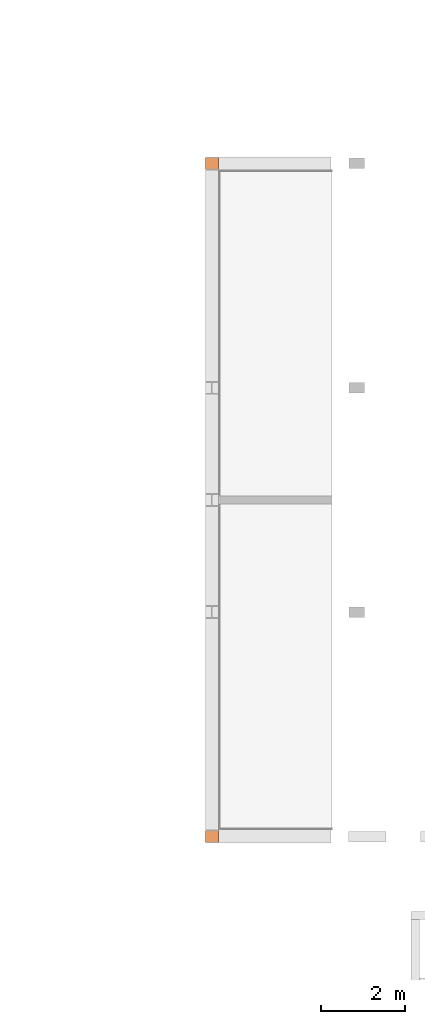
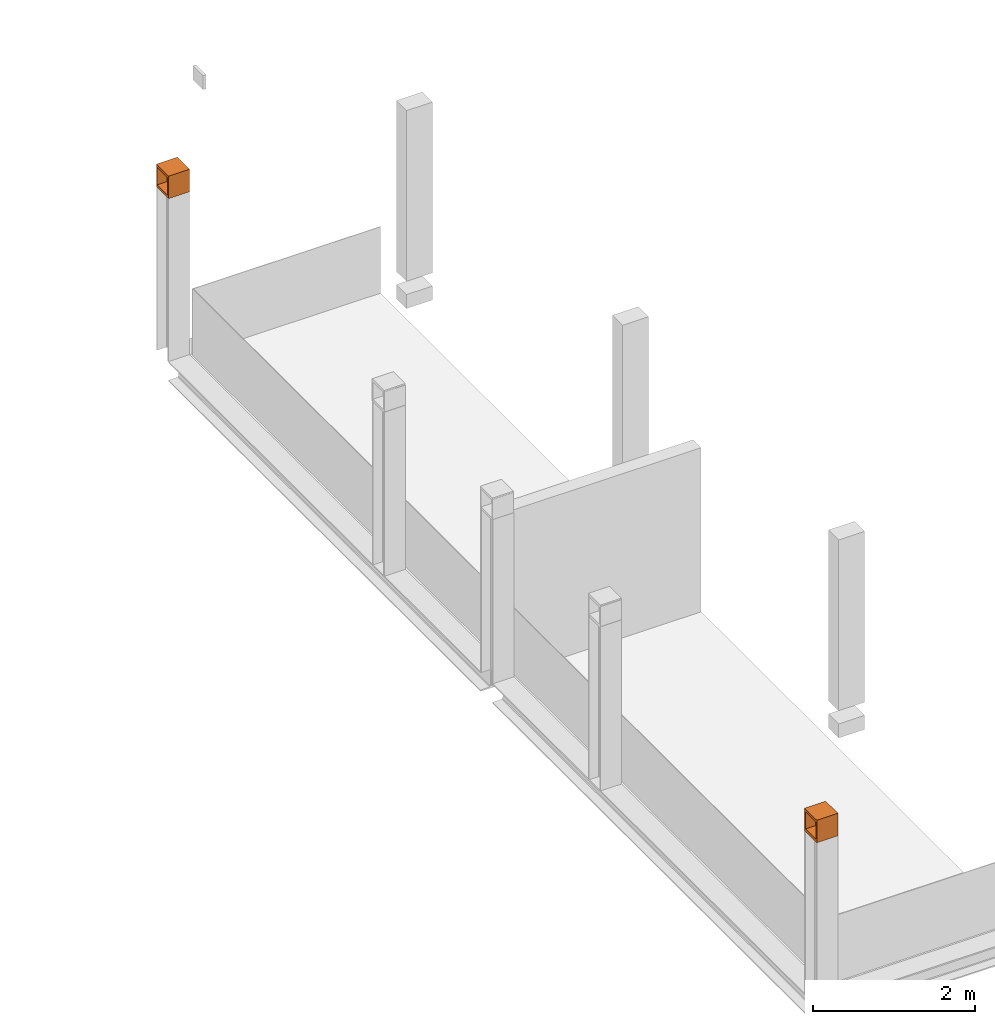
# One storey, part 22 of 22: 2 proxies.
"""IFC2X3 building model written with IfcOpenShell, lengths in millimetres."""

from ifc_helpers import new_model, entity, si_unit, converted_unit, derived_unit, money_unit, direction, frame, origin_with_axes, place, context, subcontext, project, spatial, faceted_brep, material, type_object, element, save


model = new_model("IFC2X3")

# Units and contexts
model_context = context("Model", 3, precision=0.01, world=origin_with_axes(), true_north=direction((0.0, 1.0)))
body_context = subcontext(model_context, "Body", "Model", "MODEL_VIEW")
ifc_project = project(units=[si_unit("LENGTHUNIT", "METRE", prefix="MILLI"), si_unit("AREAUNIT", "SQUARE_METRE"), si_unit("VOLUMEUNIT", "CUBIC_METRE"), converted_unit("PLANEANGLEUNIT", "DEGREE", entity("IfcPlaneAngleMeasure", 0.0174532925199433), si_unit("PLANEANGLEUNIT", "RADIAN"), dimensions=[0, 0, 0, 0, 0, 0, 0]), money_unit("EUR"), converted_unit("TIMEUNIT", "Year", entity("IfcTimeMeasure", 31557600.0), si_unit("TIMEUNIT", "SECOND"), dimensions=[0, 0, 1, 0, 0, 0, 0]), si_unit("MASSUNIT", "GRAM", prefix="KILO"), si_unit("THERMODYNAMICTEMPERATUREUNIT", "DEGREE_CELSIUS"), si_unit("LUMINOUSINTENSITYUNIT", "LUMEN"), si_unit("ENERGYUNIT", "JOULE", prefix="MEGA"), derived_unit("THERMALCONDUCTANCEUNIT", [(si_unit("POWERUNIT", "WATT"), 1), (si_unit("LENGTHUNIT", "METRE"), -1), (si_unit("THERMODYNAMICTEMPERATUREUNIT", "KELVIN"), -1)]), derived_unit("SPECIFICHEATCAPACITYUNIT", [(si_unit("ENERGYUNIT", "JOULE"), 1), (si_unit("MASSUNIT", "GRAM", prefix="KILO"), -1), (si_unit("THERMODYNAMICTEMPERATUREUNIT", "KELVIN"), -1)]), derived_unit("MASSDENSITYUNIT", [(si_unit("MASSUNIT", "GRAM", prefix="KILO"), 1), (si_unit("VOLUMEUNIT", "CUBIC_METRE"), -1)])], contexts=[model_context])

# Site, building, storey
site_placement = place(None, origin_with_axes())
site = spatial("IfcSite", under=ifc_project, at=site_placement, Name="Site", CompositionType="ELEMENT")
building_placement = place(site_placement, origin_with_axes())
building = spatial("IfcBuilding", under=site, at=building_placement, Name="Naam gebouw", CompositionType="ELEMENT")
storey_placement = place(building_placement, frame((0.0, 0.0, 11150.0), z_axis=(0.0, 0.0, 1.0), x_axis=(1.0, 0.0, 0.0)))
storey = spatial("IfcBuildingStorey", under=building, at=storey_placement, Name="3e verdieping/dak N", CompositionType="ELEMENT", Elevation=11150.0)

# Proxies
ifc_material = material(Name="staal geanodiseerd RAL 7024")
building_element_proxy_type_1 = type_object("IfcBuildingElementProxyType", Name="Structural Connections 234:Structural Connections 1", PredefinedType="NOTDEFINED")
proxy_1_placement = place(storey_placement, frame((28651.00001269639, 22625.91242505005, -7000.0), z_axis=(0.0, 0.0, 1.0), x_axis=(0.0, 1.0, 0.0)))
element("IfcBuildingElementProxy", 1, at=proxy_1_placement, inside=storey, type_object=building_element_proxy_type_1, material=ifc_material, Name="Structural Connections 234:Structural Connections 1", context=body_context, shape_type="Brep", body=[
    faceted_brep([(21170.00000128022, 11509.00001265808, 9780.0), (21170.00000128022, 11209.0000126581, 9780.0), (21170.00000128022, 11209.0000126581, 9799.999999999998), (21170.00000128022, 11509.00001265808, 9799.999999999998), (21470.00000128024, 11509.00001265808, 9780.0), (21470.00000128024, 11209.0000126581, 9780.0), (21470.00000128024, 11209.0000126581, 9799.999999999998), (21470.00000128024, 11509.00001265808, 9799.999999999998)], [[[0, 1, 2, 3]], [[0, 4, 5, 1]], [[1, 5, 6, 2]], [[3, 2, 6, 7]], [[4, 0, 3, 7]], [[5, 4, 7, 6]]]),
    faceted_brep([(21170.00000128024, 11509.00001265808, 10060.0), (21170.00000128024, 11209.0000126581, 10060.0), (21170.00000128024, 11209.0000126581, 10080.0), (21170.00000128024, 11509.00001265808, 10080.0), (21470.00000128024, 11509.00001265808, 10060.0), (21470.00000128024, 11209.0000126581, 10060.0), (21470.00000128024, 11209.0000126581, 10080.0), (21470.00000128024, 11509.00001265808, 10080.0)], [[[0, 1, 2, 3]], [[0, 4, 5, 1]], [[1, 5, 6, 2]], [[3, 2, 6, 7]], [[4, 0, 3, 7]], [[5, 4, 7, 6]]]),
    faceted_brep([(21170.00000128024, 11509.00001265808, 10080.0), (21170.00000128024, 11209.00001265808, 10080.0), (21170.00000128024, 11209.00001265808, 10100.0), (21170.00000128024, 11509.00001265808, 10100.0), (21470.00000128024, 11509.00001265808, 10080.0), (21470.00000128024, 11209.00001265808, 10080.0), (21470.00000128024, 11209.00001265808, 10100.0), (21470.00000128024, 11509.00001265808, 10100.0)], [[[0, 1, 2, 3]], [[0, 4, 5, 1]], [[1, 5, 6, 2]], [[3, 2, 6, 7]], [[4, 0, 3, 7]], [[5, 4, 7, 6]]]),
    faceted_brep([(21170.00000128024, 11509.00001265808, 9760.0), (21170.00000128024, 11209.00001265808, 9760.0), (21170.00000128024, 11209.00001265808, 9780.0), (21170.00000128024, 11509.00001265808, 9780.0), (21470.00000128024, 11509.00001265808, 9760.0), (21470.00000128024, 11209.00001265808, 9760.0), (21470.00000128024, 11209.00001265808, 9780.0), (21470.00000128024, 11509.00001265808, 9780.0)], [[[0, 1, 2, 3]], [[0, 4, 5, 1]], [[1, 5, 6, 2]], [[3, 2, 6, 7]], [[4, 0, 3, 7]], [[5, 4, 7, 6]]]),
    faceted_brep([(21451.00000128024, 11209.00001265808, 9780.0), (21470.00000128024, 11209.00001265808, 9780.0), (21470.00000128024, 11209.00001265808, 10080.0), (21451.00000128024, 11209.00001265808, 10080.0), (21451.00000128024, 11353.50001265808, 9780.0), (21189.00000128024, 11353.50001265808, 9780.0), (21189.00000128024, 11209.00001265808, 9780.0), (21170.00000128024, 11209.00001265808, 9780.0), (21170.00000128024, 11509.00001265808, 9780.0), (21189.00000128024, 11509.00001265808, 9780.0), (21189.00000128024, 11364.50001265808, 9780.0), (21451.00000128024, 11364.50001265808, 9780.0), (21451.00000128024, 11509.00001265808, 9780.0), (21470.00000128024, 11509.00001265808, 9780.0), (21470.00000128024, 11509.00001265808, 10080.0), (21451.00000128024, 11509.00001265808, 10080.0), (21451.00000128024, 11364.50001265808, 10080.0), (21189.00000128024, 11364.50001265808, 10080.0), (21189.00000128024, 11509.00001265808, 10080.0), (21170.00000128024, 11509.00001265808, 10080.0), (21170.00000128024, 11209.00001265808, 10080.0), (21189.00000128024, 11209.00001265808, 10080.0), (21189.00000128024, 11353.50001265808, 10080.0), (21451.00000128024, 11353.50001265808, 10080.0)], [[[0, 1, 2, 3]], [[0, 4, 5, 6, 7, 8, 9, 10, 11, 12, 13, 1]], [[1, 13, 14, 2]], [[3, 2, 14, 15, 16, 17, 18, 19, 20, 21, 22, 23]], [[4, 0, 3, 23]], [[5, 4, 23, 22]], [[6, 5, 22, 21]], [[7, 6, 21, 20]], [[8, 7, 20, 19]], [[9, 8, 19, 18]], [[10, 9, 18, 17]], [[11, 10, 17, 16]], [[12, 11, 16, 15]], [[13, 12, 15, 14]]]),
])
building_element_proxy_type_2 = type_object("IfcBuildingElementProxyType", Name="Structural Connections 233:Structural Connections 1", PredefinedType="NOTDEFINED")
proxy_2_placement = place(storey_placement, frame((28651.00001269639, 22625.91242505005, -7000.0), z_axis=(0.0, 0.0, 1.0), x_axis=(0.0, 1.0, 0.0)))
element("IfcBuildingElementProxy", 2, at=proxy_2_placement, inside=storey, type_object=building_element_proxy_type_2, material=ifc_material, Name="Structural Connections 233:Structural Connections 1", context=body_context, shape_type="Brep", body=[
    faceted_brep([(5180.000001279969, 11209.00001265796, 9780.0), (5480.00000127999, 11209.00001265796, 9780.0), (5480.00000127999, 11209.00001265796, 9799.999999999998), (5180.000001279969, 11209.00001265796, 9799.999999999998), (5180.000001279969, 11509.00001265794, 9780.0), (5480.00000127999, 11509.00001265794, 9780.0), (5480.00000127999, 11509.00001265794, 9799.999999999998), (5180.000001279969, 11509.00001265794, 9799.999999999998)], [[[0, 1, 2, 3]], [[0, 4, 5, 1]], [[1, 5, 6, 2]], [[3, 2, 6, 7]], [[4, 0, 3, 7]], [[5, 4, 7, 6]]]),
    faceted_brep([(5180.000001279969, 11209.00001265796, 10060.0), (5480.00000127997, 11209.00001265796, 10060.0), (5480.00000127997, 11209.00001265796, 10080.0), (5180.000001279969, 11209.00001265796, 10080.0), (5180.000001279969, 11509.00001265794, 10060.0), (5480.00000127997, 11509.00001265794, 10060.0), (5480.00000127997, 11509.00001265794, 10080.0), (5180.000001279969, 11509.00001265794, 10080.0)], [[[0, 1, 2, 3]], [[0, 4, 5, 1]], [[1, 5, 6, 2]], [[3, 2, 6, 7]], [[4, 0, 3, 7]], [[5, 4, 7, 6]]]),
    faceted_brep([(5180.000001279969, 11209.00001265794, 10080.0), (5480.00000127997, 11209.00001265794, 10080.0), (5480.00000127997, 11209.00001265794, 10100.0), (5180.000001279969, 11209.00001265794, 10100.0), (5180.000001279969, 11509.00001265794, 10080.0), (5480.00000127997, 11509.00001265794, 10080.0), (5480.00000127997, 11509.00001265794, 10100.0), (5180.000001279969, 11509.00001265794, 10100.0)], [[[0, 1, 2, 3]], [[0, 4, 5, 1]], [[1, 5, 6, 2]], [[3, 2, 6, 7]], [[4, 0, 3, 7]], [[5, 4, 7, 6]]]),
    faceted_brep([(5180.000001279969, 11209.00001265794, 9760.0), (5480.00000127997, 11209.00001265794, 9760.0), (5480.00000127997, 11209.00001265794, 9780.0), (5180.000001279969, 11209.00001265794, 9780.0), (5180.000001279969, 11509.00001265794, 9760.0), (5480.00000127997, 11509.00001265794, 9760.0), (5480.00000127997, 11509.00001265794, 9780.0), (5180.000001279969, 11509.00001265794, 9780.0)], [[[0, 1, 2, 3]], [[0, 4, 5, 1]], [[1, 5, 6, 2]], [[3, 2, 6, 7]], [[4, 0, 3, 7]], [[5, 4, 7, 6]]]),
    faceted_brep([(5199.00000127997, 11209.00001265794, 10080.0), (5180.000001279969, 11209.00001265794, 10080.0), (5180.000001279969, 11209.00001265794, 9780.0), (5199.00000127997, 11209.00001265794, 9780.0), (5199.00000127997, 11353.50001265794, 10080.0), (5461.00000127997, 11353.50001265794, 10080.0), (5461.00000127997, 11209.00001265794, 10080.0), (5480.00000127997, 11209.00001265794, 10080.0), (5480.00000127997, 11509.00001265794, 10080.0), (5461.00000127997, 11509.00001265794, 10080.0), (5461.00000127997, 11364.50001265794, 10080.0), (5199.00000127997, 11364.50001265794, 10080.0), (5199.00000127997, 11509.00001265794, 10080.0), (5180.000001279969, 11509.00001265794, 10080.0), (5180.000001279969, 11509.00001265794, 9780.0), (5199.00000127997, 11509.00001265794, 9780.0), (5199.00000127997, 11364.50001265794, 9780.0), (5461.00000127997, 11364.50001265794, 9780.0), (5461.00000127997, 11509.00001265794, 9780.0), (5480.00000127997, 11509.00001265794, 9780.0), (5480.00000127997, 11209.00001265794, 9780.0), (5461.00000127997, 11209.00001265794, 9780.0), (5461.00000127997, 11353.50001265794, 9780.0), (5199.00000127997, 11353.50001265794, 9780.0)], [[[0, 1, 2, 3]], [[0, 4, 5, 6, 7, 8, 9, 10, 11, 12, 13, 1]], [[1, 13, 14, 2]], [[3, 2, 14, 15, 16, 17, 18, 19, 20, 21, 22, 23]], [[4, 0, 3, 23]], [[5, 4, 23, 22]], [[6, 5, 22, 21]], [[7, 6, 21, 20]], [[8, 7, 20, 19]], [[9, 8, 19, 18]], [[10, 9, 18, 17]], [[11, 10, 17, 16]], [[12, 11, 16, 15]], [[13, 12, 15, 14]]]),
])

save(model, "model.ifc")
